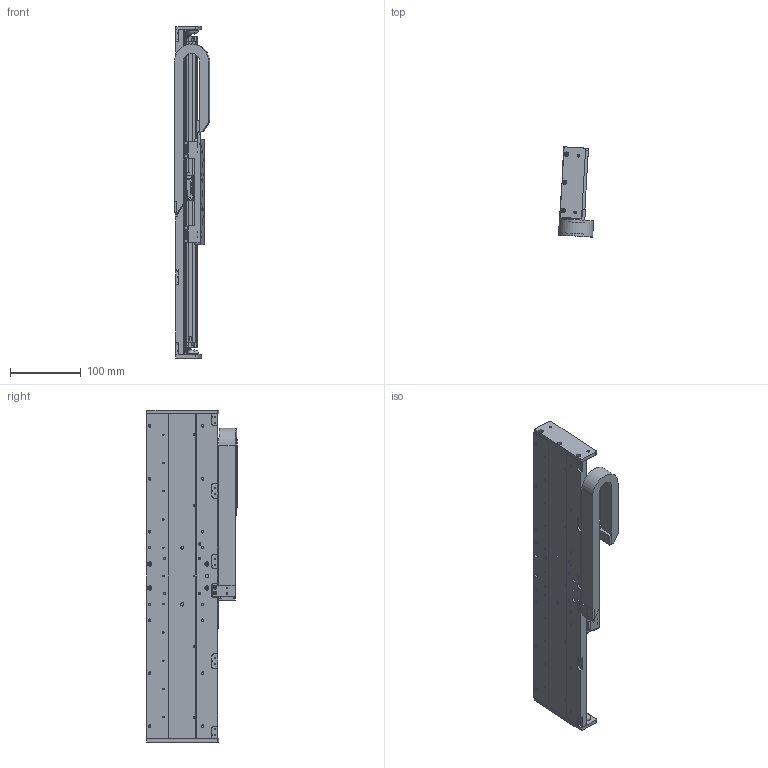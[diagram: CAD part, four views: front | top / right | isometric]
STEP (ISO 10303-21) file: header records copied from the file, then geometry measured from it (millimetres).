
FILE_DESCRIPTION(/* description */ (''),/* implementation_level */ '2;1');
FILE_NAME(/* name */ 'I:\FY15 Projects\MSR\MSR100\Web Step Models\mSR100L-300XLDXXXXXXCM13.stp',/* time_stamp */ '2015-02-18T13:25:43-05:00',/* author */ ('BF20108'),/* organization */ (''),/* preprocessor_version */ 'ST-DEVELOPER v15.2',/* originating_system */ 'Autodesk Inventor 2014',/* authorisation */ '');
FILE_SCHEMA (('AUTOMOTIVE_DESIGN { 1 0 10303 214 3 1 1 }'));
Products named in the file (18): 102-5710-08; 003-3562-40; 102-5702-07; ml18-120m-n; ml18-80m-n; 102-5703-01; 102-5705-01; 002-3740-08; 003-3561; 003-5000; 102-5708; ML18-5E; 002-3740-long-carriage-assy; mx100-mcb; mx100-scb; e045-16-018-carrier-10; 002-3740-cbl-carr-lc-03; 002-3740
Bounding box: 49.76 x 127.64 x 470 mm (x, y, z)
Volume: 823853.8 mm3; surface area: 379494 mm2
Topology: 25 solids, 26 shells, 2852 faces, 7633 edges, 4905 vertices
Faces by surface type: plane 1403, cylinder 1070, cone 191, torus 176, bspline 8, sphere 4
Full cylindrical faces by diameter (mm): 0.5 x8, 1 x4, 1.567 x95, 1.588 x2, 2.007 x18, 2.013 x15, 2.135 x4, 2.4 x62, 2.459 x23, 2.5 x20, 2.642 x4, 2.75 x1, 3 x27, 3.242 x10, 3.4 x31, 3.505 x4, 4 x4, 4.17 x2, 4.2 x63, 4.5 x18, 5 x9, 5.08 x2, 6 x35, 11.176 x4
Entity records: 58816 total; most frequent: CARTESIAN_POINT 11137, DIRECTION 9905, ORIENTED_EDGE 9098, EDGE_CURVE 4535, AXIS2_PLACEMENT_3D 3539, VERTEX_POINT 3190, EDGE_LOOP 2863, LINE 2827
